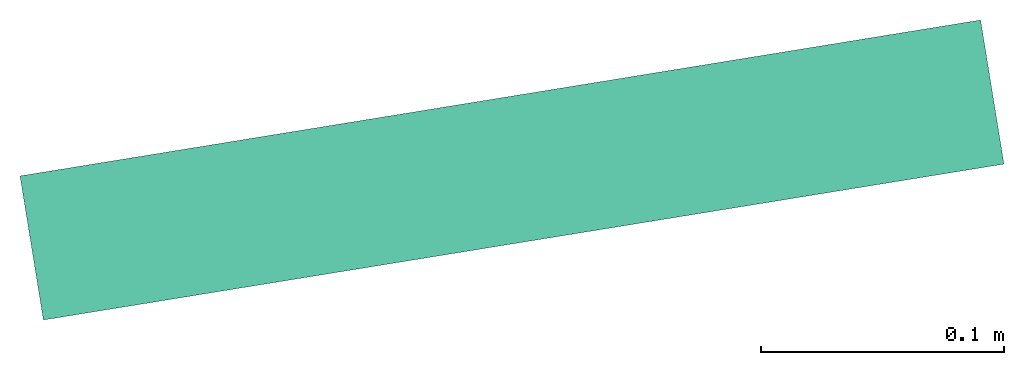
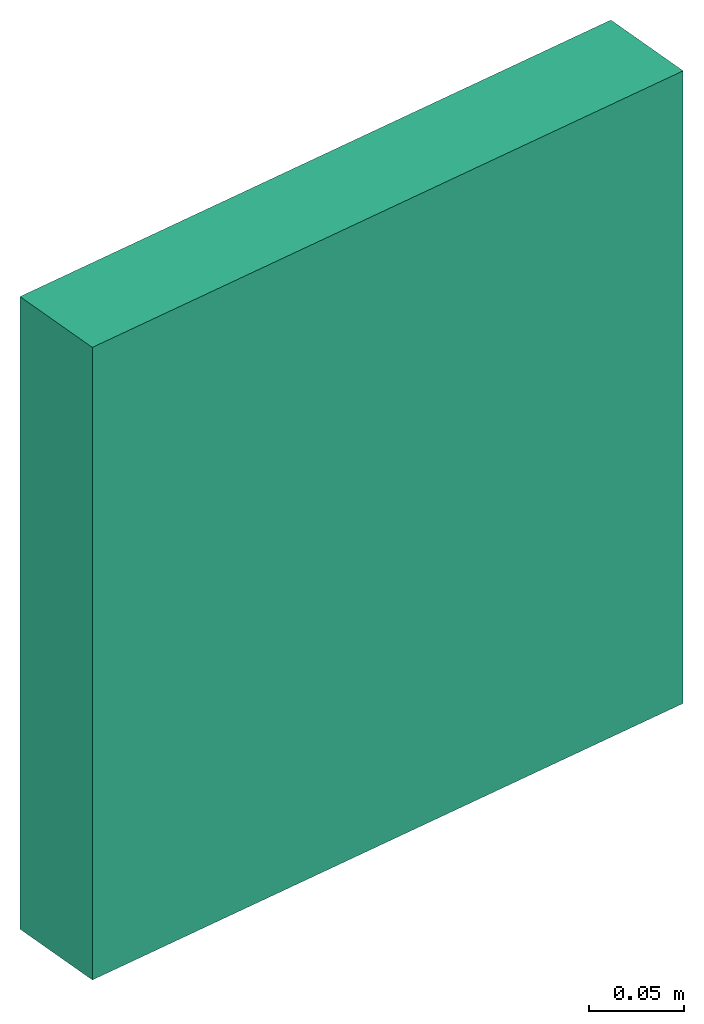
# One storey: 1 flow segment.
"""IFC2X3 building model written with IfcOpenShell, lengths in millimetres."""

from ifc_helpers import new_model, entity, si_unit, converted_unit, derived_unit, direction, frame, origin, origin_with_axes, origin_2d_with_axis, place, context, subcontext, project, spatial, rectangle, extrude, type_object, element, save


model = new_model("IFC2X3")

# Units and contexts
plan_context = context("Plan", 3, precision=1e-05, world=origin_with_axes())
model_context = context("Model", 3, precision=0.01, world=origin(), true_north=direction((6.12323399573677e-17, 1.0)))
body_context = subcontext(model_context, "Body", "Model", "MODEL_VIEW")
ifc_project = project(units=[converted_unit("PLANEANGLEUNIT", "DEGREE", entity("IfcPositiveLengthMeasure", 0.0174532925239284), si_unit("PLANEANGLEUNIT", "RADIAN"), dimensions=[0, 0, 0, 0, 0, 0, 0]), si_unit("AREAUNIT", "SQUARE_METRE"), si_unit("LENGTHUNIT", "METRE", prefix="MILLI"), si_unit("MASSUNIT", "GRAM", prefix="KILO"), si_unit("POWERUNIT", "WATT"), si_unit("PRESSUREUNIT", "PASCAL", prefix="KILO"), si_unit("FORCEUNIT", "NEWTON", prefix="KILO"), si_unit("ELECTRICVOLTAGEUNIT", "VOLT"), si_unit("ELECTRICCURRENTUNIT", "AMPERE"), si_unit("THERMODYNAMICTEMPERATUREUNIT", "DEGREE_CELSIUS"), si_unit("TIMEUNIT", "SECOND"), si_unit("VOLUMEUNIT", "CUBIC_METRE"), derived_unit("LINEARVELOCITYUNIT", [(si_unit("LENGTHUNIT", "METRE"), 1), (si_unit("TIMEUNIT", "SECOND"), -1)]), derived_unit("VOLUMETRICFLOWRATEUNIT", [(si_unit("VOLUMEUNIT", "CUBIC_METRE"), 1), (si_unit("TIMEUNIT", "SECOND"), -1)]), derived_unit("THERMALTRANSMITTANCEUNIT", [(si_unit("POWERUNIT", "WATT"), 1), (si_unit("THERMODYNAMICTEMPERATUREUNIT", "KELVIN"), -1), (si_unit("AREAUNIT", "SQUARE_METRE"), -1)]), derived_unit("SOUNDPRESSUREUNIT", [(si_unit("PRESSUREUNIT", "PASCAL"), 1)])], contexts=[model_context, plan_context])

# Site, building, storey
site_placement = place(None, frame((-0.219946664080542, 0.12226179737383, 0.0), z_axis=(0.0, 0.0, 1.0), x_axis=(-0.160236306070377, 0.987078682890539, 0.0)))
site = spatial("IfcSite", under=ifc_project, at=site_placement, Name="Default", CompositionType="ELEMENT")
building_placement = place(site_placement, origin_with_axes())
building = spatial("IfcBuilding", under=site, at=building_placement, CompositionType="ELEMENT")
storey_placement = place(building_placement, frame((0.0, 0.0, 42100.0000000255), z_axis=(0.0, 0.0, 1.0), x_axis=(1.0, 0.0, 0.0)))
storey = spatial("IfcBuildingStorey", under=building, at=storey_placement, Name="Nivå A", CompositionType="ELEMENT", Elevation=42100.0000000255)

# Flow segment
cable_carrier_segment_type = type_object("IfcCableCarrierSegmentType", Name="Cable Tray with Fittings:Kabelbro", PredefinedType="CABLETRAYSEGMENT")
flow_segment_placement = place(storey_placement, origin_with_axes())
element("IfcFlowSegment", 1, at=flow_segment_placement, inside=storey, type_object=cable_carrier_segment_type, Name="Cable Tray with Fittings:Kabelbro", ObjectType="Cable Tray with Fittings:Kabelbro", context=body_context, shape_type="SweptSolid", body=[
    extrude(rectangle(XDim=400.000000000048, YDim=59.9999999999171, at=origin_2d_with_axis()), frame((769162.619644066, -503477.473242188, 16250.0000000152), z_axis=(0.0, 0.0, 1.0), x_axis=(0.0, -1.0, 0.0)), (0.0, 0.0, 1.0), 404.999999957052),
])

save(model, "model.ifc")
